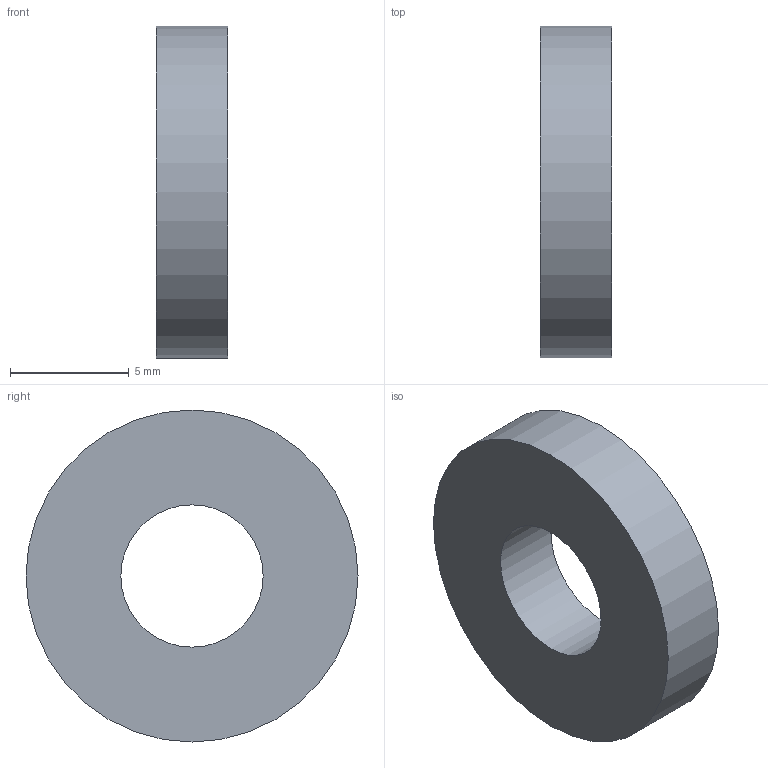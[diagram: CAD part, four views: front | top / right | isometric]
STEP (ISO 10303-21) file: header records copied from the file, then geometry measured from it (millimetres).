
FILE_DESCRIPTION(/* description */ ('STEP AP214'),/* implementation_level */ '2;1');
FILE_NAME(/* name */ 'Mounting Accessory GN 753.2-8-10-3-AO-NI',/* time_stamp */ '2024-12-09T14:01:33+01:00',/* author */ ('License CC BY-ND 4.0'),/* organization */ ('CADENAS'),/* preprocessor_version */ 'ST-DEVELOPER v19.3',/* originating_system */ 'PARTsolutions',/* authorisation */ ' ');
FILE_SCHEMA (('AUTOMOTIVE_DESIGN {1 0 10303 214 3 1 1}'));
Length unit declared in the file: millimetre
Products named in the file (1): Mounting Accessory GN 753.2-8-10-3-AO-NI
Bounding box: 3 x 14 x 14 mm (x, y, z)
Volume: 377 mm3; surface area: 439.8 mm2
Topology: 1 solids, 1 shells, 4 faces, 6 edges, 4 vertices
Faces by surface type: plane 2, cylinder 2
Full cylindrical faces by diameter (mm): 6 x1, 14 x1
Entity records: 118 total; most frequent: DIRECTION 18, CARTESIAN_POINT 13, AXIS2_PLACEMENT_3D 9, ORIENTED_EDGE 8, EDGE_LOOP 8, FACE_BOUND 8, EDGE_CURVE 4, VERTEX_POINT 4
